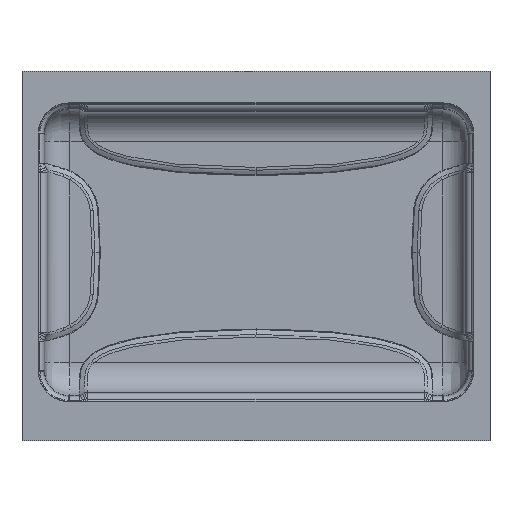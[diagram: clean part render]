
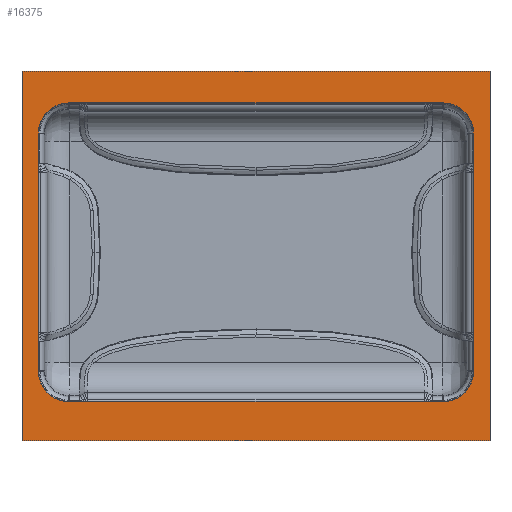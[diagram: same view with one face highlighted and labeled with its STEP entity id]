
A CAD part, front view. The second image highlights one B-rep face of the part: STEP entity #16375.
In plain terms, the highlighted planar face has unit normal (0, -1, 0).
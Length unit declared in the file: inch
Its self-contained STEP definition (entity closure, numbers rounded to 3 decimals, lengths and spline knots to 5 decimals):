
#48 = EDGE_LOOP ( 'NONE', ( #15916, #16233, #16264, #11626 ) ) ;
#70 = VERTEX_POINT ( 'NONE', #20389 ) ;
#77 = VERTEX_POINT ( 'NONE', #20646 ) ;
#79 = VERTEX_POINT ( 'NONE', #21109 ) ;
#151 = VERTEX_POINT ( 'NONE', #20445 ) ;
#211 = VERTEX_POINT ( 'NONE', #20993 ) ;
#325 = VERTEX_POINT ( 'NONE', #20956 ) ;
#462 = VERTEX_POINT ( 'NONE', #20459 ) ;
#493 = VERTEX_POINT ( 'NONE', #20420 ) ;
#9024 = CARTESIAN_POINT ( 'NONE',  ( -7.14205, 0., -3.91634 ) ) ;
#9196 = CARTESIAN_POINT ( 'NONE',  ( 7.685, 0., 5.9426 ) ) ;
#9200 = FACE_BOUND ( 'NONE', #11932, .T. ) ;
#9201 = FACE_OUTER_BOUND ( 'NONE', #48, .T. ) ;
#9202 = PLANE ( 'NONE',  #17090 ) ;
#9204 = DIRECTION ( 'NONE',  ( 0., -1., 0. ) ) ;
#9205 = DIRECTION ( 'NONE',  ( 0., 0., -1. ) ) ;
#11626 = ORIENTED_EDGE ( 'NONE', *, *, #20178, .T. ) ;
#11932 = EDGE_LOOP ( 'NONE', ( #16343, #24198, #24186, #24194, #16153, #16096, #16185, #23620 ) ) ;
#13476 = VERTEX_POINT ( 'NONE', #9024 ) ;
#14080 = CARTESIAN_POINT ( 'NONE',  ( 7.14205, 0., 3.91634 ) ) ;
#14146 = CARTESIAN_POINT ( 'NONE',  ( -7.685, 0., -6.18635 ) ) ;
#14148 = CARTESIAN_POINT ( 'NONE',  ( -6.155, 0., -4.90339 ) ) ;
#15278 = LINE ( 'NONE', #15279, #17418 ) ;
#15279 = CARTESIAN_POINT ( 'NONE',  ( 7.14205, 0., 5.9426 ) ) ;
#15284 = DIRECTION ( 'NONE',  ( 0., 0., 1. ) ) ;
#15336 = CARTESIAN_POINT ( 'NONE',  ( -6.155, 0., -3.91635 ) ) ;
#15337 = DIRECTION ( 'NONE',  ( 0., -1., 0. ) ) ;
#15338 = DIRECTION ( 'NONE',  ( 0., 0., -1. ) ) ;
#15916 = ORIENTED_EDGE ( 'NONE', *, *, #20334, .T. ) ;
#16096 = ORIENTED_EDGE ( 'NONE', *, *, #20183, .F. ) ;
#16153 = ORIENTED_EDGE ( 'NONE', *, *, #20210, .F. ) ;
#16185 = ORIENTED_EDGE ( 'NONE', *, *, #20151, .F. ) ;
#16233 = ORIENTED_EDGE ( 'NONE', *, *, #20197, .T. ) ;
#16264 = ORIENTED_EDGE ( 'NONE', *, *, #20274, .T. ) ;
#16343 = ORIENTED_EDGE ( 'NONE', *, *, #20500, .F. ) ;
#16375 = ADVANCED_FACE ( 'NONE', ( #9200, #9201 ), #9202, .T. ) ;
#17090 = AXIS2_PLACEMENT_3D ( 'NONE', #9196, #9204, #9205 ) ;
#17168 = VECTOR ( 'NONE', #18183, 39.37008 ) ;
#17192 = VECTOR ( 'NONE', #18468, 39.37008 ) ;
#17197 = CIRCLE ( 'NONE', #17201, 0.98705 ) ;
#17201 = AXIS2_PLACEMENT_3D ( 'NONE', #18488, #18489, #18490 ) ;
#17214 = VECTOR ( 'NONE', #18619, 39.37008 ) ;
#17217 = VECTOR ( 'NONE', #18849, 39.37008 ) ;
#17273 = VECTOR ( 'NONE', #21827, 39.37008 ) ;
#17293 = VECTOR ( 'NONE', #21838, 39.37008 ) ;
#17300 = AXIS2_PLACEMENT_3D ( 'NONE', #21977, #21978, #21979 ) ;
#17304 = CIRCLE ( 'NONE', #17300, 0.98705 ) ;
#17329 = CIRCLE ( 'NONE', #17330, 0.98705 ) ;
#17330 = AXIS2_PLACEMENT_3D ( 'NONE', #22194, #22195, #22196 ) ;
#17364 = VECTOR ( 'NONE', #22427, 39.37008 ) ;
#17418 = VECTOR ( 'NONE', #15284, 39.37008 ) ;
#17422 = CIRCLE ( 'NONE', #17424, 0.98705 ) ;
#17424 = AXIS2_PLACEMENT_3D ( 'NONE', #15336, #15337, #15338 ) ;
#18181 = LINE ( 'NONE', #18182, #17168 ) ;
#18182 = CARTESIAN_POINT ( 'NONE',  ( 7.685, 0., 4.90339 ) ) ;
#18183 = DIRECTION ( 'NONE',  ( -1., 0., 0. ) ) ;
#18438 = LINE ( 'NONE', #18467, #17192 ) ;
#18467 = CARTESIAN_POINT ( 'NONE',  ( 7.685, 0., -6.18635 ) ) ;
#18468 = DIRECTION ( 'NONE',  ( 1., 0., 0. ) ) ;
#18488 = CARTESIAN_POINT ( 'NONE',  ( -6.155, 0., 3.91635 ) ) ;
#18489 = DIRECTION ( 'NONE',  ( 0., -1., 0. ) ) ;
#18490 = DIRECTION ( 'NONE',  ( 0., 0., -1. ) ) ;
#18610 = LINE ( 'NONE', #18618, #17214 ) ;
#18618 = CARTESIAN_POINT ( 'NONE',  ( 7.685, 0., 5.9426 ) ) ;
#18619 = DIRECTION ( 'NONE',  ( -1., 0., 0. ) ) ;
#18847 = LINE ( 'NONE', #18848, #17217 ) ;
#18848 = CARTESIAN_POINT ( 'NONE',  ( -7.14205, 0., 5.9426 ) ) ;
#18849 = DIRECTION ( 'NONE',  ( 0., 0., -1. ) ) ;
#20151 = EDGE_CURVE ( 'NONE', #493, #77, #18181, .T. ) ;
#20178 = EDGE_CURVE ( 'NONE', #24319, #211, #18438, .T. ) ;
#20183 = EDGE_CURVE ( 'NONE', #77, #151, #17197, .T. ) ;
#20197 = EDGE_CURVE ( 'NONE', #462, #325, #18610, .T. ) ;
#20210 = EDGE_CURVE ( 'NONE', #151, #13476, #18847, .T. ) ;
#20271 = EDGE_CURVE ( 'NONE', #24321, #79, #21825, .T. ) ;
#20274 = EDGE_CURVE ( 'NONE', #325, #24319, #21828, .T. ) ;
#20286 = EDGE_CURVE ( 'NONE', #24318, #493, #17304, .T. ) ;
#20310 = EDGE_CURVE ( 'NONE', #79, #70, #17329, .T. ) ;
#20334 = EDGE_CURVE ( 'NONE', #211, #462, #22421, .T. ) ;
#20389 = CARTESIAN_POINT ( 'NONE',  ( 7.14205, 0., -3.91635 ) ) ;
#20420 = CARTESIAN_POINT ( 'NONE',  ( 6.155, 0., 4.90339 ) ) ;
#20445 = CARTESIAN_POINT ( 'NONE',  ( -7.14205, 0., 3.91635 ) ) ;
#20459 = CARTESIAN_POINT ( 'NONE',  ( 7.685, 0., 5.9426 ) ) ;
#20500 = EDGE_CURVE ( 'NONE', #70, #24318, #15278, .T. ) ;
#20558 = EDGE_CURVE ( 'NONE', #13476, #24321, #17422, .T. ) ;
#20646 = CARTESIAN_POINT ( 'NONE',  ( -6.155, 0., 4.90339 ) ) ;
#20956 = CARTESIAN_POINT ( 'NONE',  ( -7.685, 0., 5.9426 ) ) ;
#20993 = CARTESIAN_POINT ( 'NONE',  ( 7.685, 0., -6.18635 ) ) ;
#21109 = CARTESIAN_POINT ( 'NONE',  ( 6.155, 0., -4.90339 ) ) ;
#21825 = LINE ( 'NONE', #21826, #17273 ) ;
#21826 = CARTESIAN_POINT ( 'NONE',  ( 7.685, 0., -4.90339 ) ) ;
#21827 = DIRECTION ( 'NONE',  ( 1., 0., 0. ) ) ;
#21828 = LINE ( 'NONE', #21829, #17293 ) ;
#21829 = CARTESIAN_POINT ( 'NONE',  ( -7.685, 0., -6.18635 ) ) ;
#21838 = DIRECTION ( 'NONE',  ( 0., 0., -1. ) ) ;
#21977 = CARTESIAN_POINT ( 'NONE',  ( 6.155, 0., 3.91634 ) ) ;
#21978 = DIRECTION ( 'NONE',  ( 0., -1., 0. ) ) ;
#21979 = DIRECTION ( 'NONE',  ( 0., 0., -1. ) ) ;
#22194 = CARTESIAN_POINT ( 'NONE',  ( 6.155, 0., -3.91635 ) ) ;
#22195 = DIRECTION ( 'NONE',  ( 0., -1., 0. ) ) ;
#22196 = DIRECTION ( 'NONE',  ( 0., 0., -1. ) ) ;
#22418 = CARTESIAN_POINT ( 'NONE',  ( 7.685, 0., -6.18635 ) ) ;
#22421 = LINE ( 'NONE', #22418, #17364 ) ;
#22427 = DIRECTION ( 'NONE',  ( 0., 0., 1. ) ) ;
#23620 = ORIENTED_EDGE ( 'NONE', *, *, #20286, .F. ) ;
#24186 = ORIENTED_EDGE ( 'NONE', *, *, #20271, .F. ) ;
#24194 = ORIENTED_EDGE ( 'NONE', *, *, #20558, .F. ) ;
#24198 = ORIENTED_EDGE ( 'NONE', *, *, #20310, .F. ) ;
#24318 = VERTEX_POINT ( 'NONE', #14080 ) ;
#24319 = VERTEX_POINT ( 'NONE', #14146 ) ;
#24321 = VERTEX_POINT ( 'NONE', #14148 ) ;
